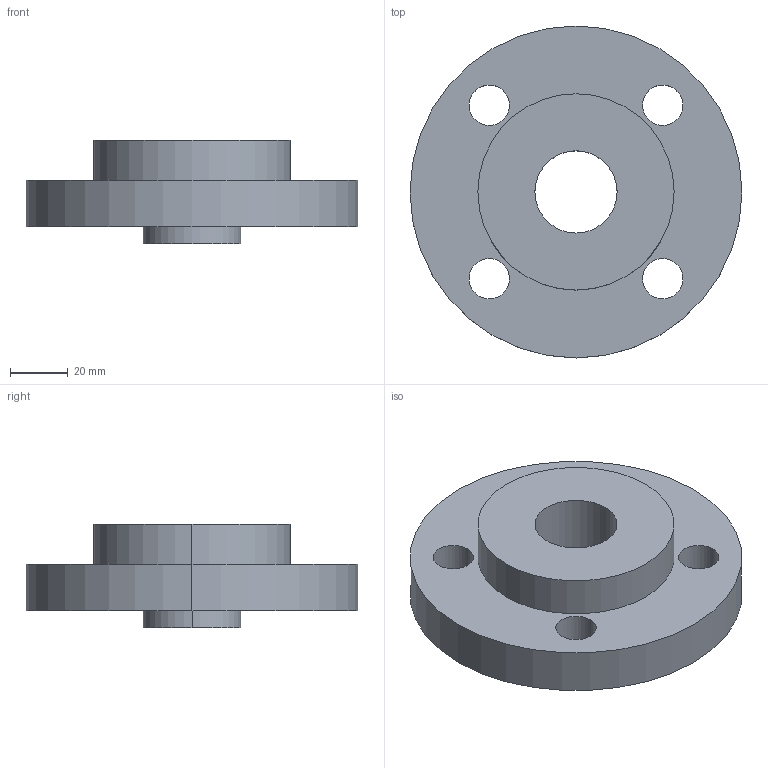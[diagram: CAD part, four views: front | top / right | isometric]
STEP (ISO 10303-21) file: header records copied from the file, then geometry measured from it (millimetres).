
FILE_DESCRIPTION (( 'STEP AP214' ), '1' );
FILE_NAME ('PN40 DN25 Type 04 in 34 - (Type A Face).STEP', '2018-12-29T20:36:34', ( '' ), ( '' ), 'SwSTEP 2.0', 'SolidWorks 2019', '' );
FILE_SCHEMA (( 'AUTOMOTIVE_DESIGN' ));
Length unit declared in the file: millimetre
Products named in the file (1): PN40 DN25 Type 04 in 34 - (Type A Face)
Bounding box: 115 x 115 x 36 mm (x, y, z)
Volume: 174834.1 mm3; surface area: 40661 mm2
Topology: 2 solids, 2 shells, 29 faces, 66 edges, 42 vertices
Faces by surface type: cylinder 18, cone 6, plane 5
Entity records: 901 total; most frequent: DIRECTION 168, CARTESIAN_POINT 138, ORIENTED_EDGE 132, AXIS2_PLACEMENT_3D 72, EDGE_CURVE 66, CIRCLE 42, EDGE_LOOP 42, VERTEX_POINT 42
